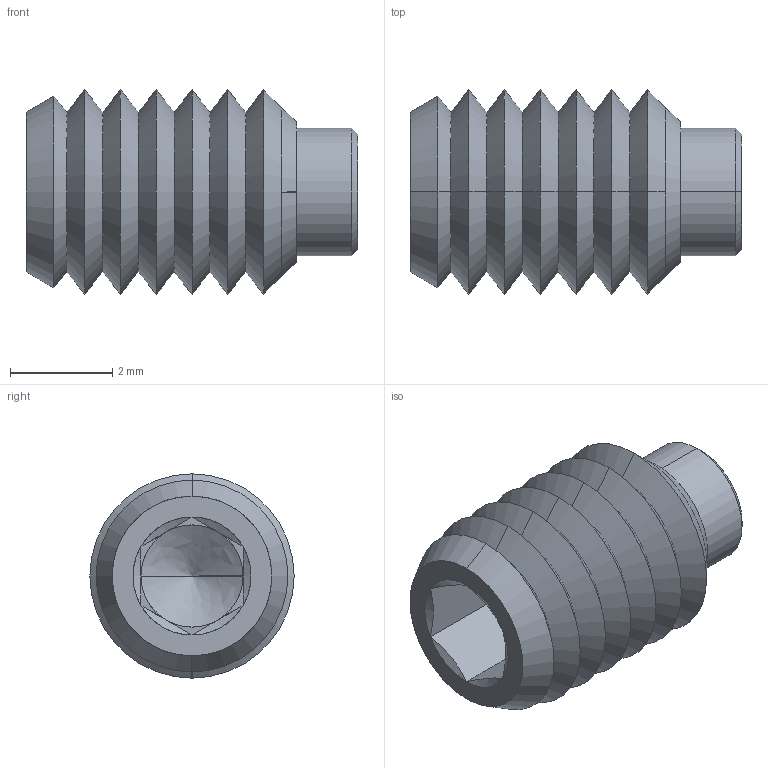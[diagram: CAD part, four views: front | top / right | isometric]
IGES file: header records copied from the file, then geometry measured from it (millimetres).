
Start section: SolidWorks IGES file using analytic representation for surfaces
Global section: file name: C:\Users\IanO\Desktop\P0120_v2_230406\P0120_v2_20230506_IGES\P0120.040-006.igs; native system: SolidWorks 2019; preprocessor: SolidWorks 2019; author: IanO; date: 230406.142215; units: millimetre
Bounding box: 6.5 x 4 x 4 mm (x, y, z)
Surface area: 154.9 mm2 (no closed solid volume)
Topology: 0 solids, 0 shells, 61 faces, 490 edges, 488 vertices
Faces by surface type: revolution 44, bspline 17
